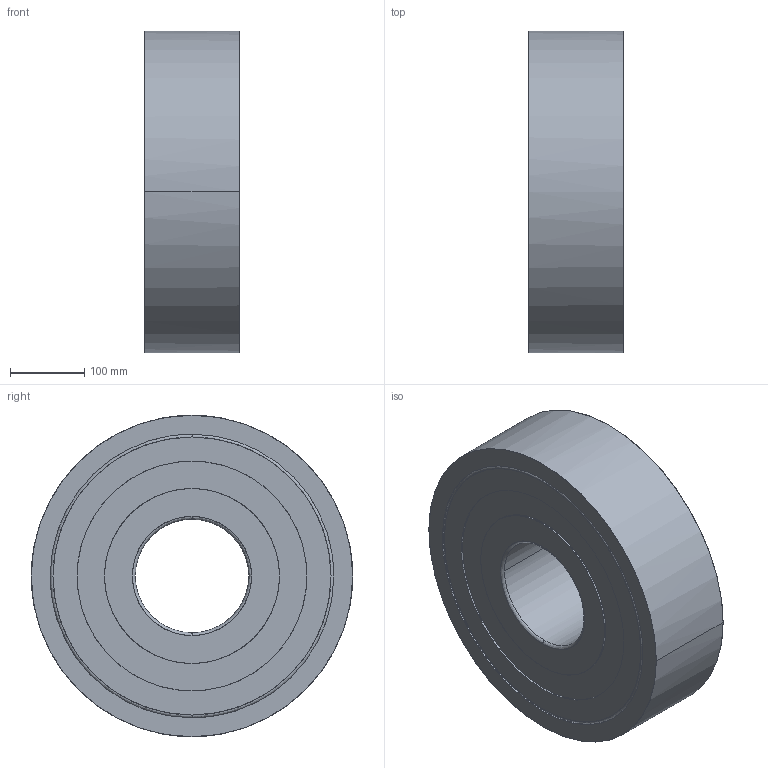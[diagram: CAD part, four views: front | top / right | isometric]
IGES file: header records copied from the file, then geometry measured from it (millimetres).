
Global section: native system: Kubotek KeyCreator; preprocessor: KCM Version 1.1.1442.0; author: KeyCreator User; organization: Self; date: 20170714.085730; units: inch
Bounding box: 127 x 431.8 x 431.8 mm (x, y, z)
Surface area: 511054.4 mm2 (no closed solid volume)
Topology: 0 solids, 0 shells, 32 faces, 208 edges, 208 vertices
Faces by surface type: bspline 32
